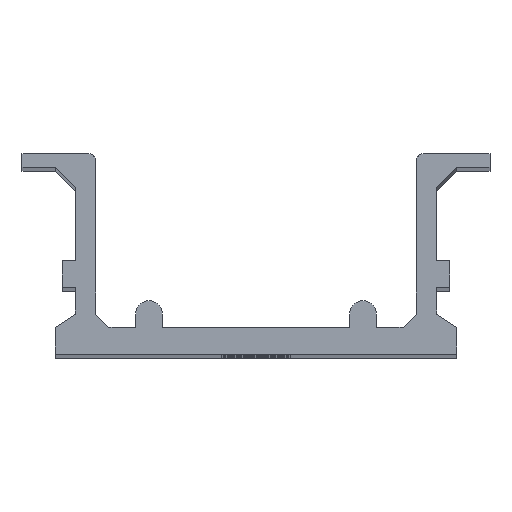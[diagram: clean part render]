
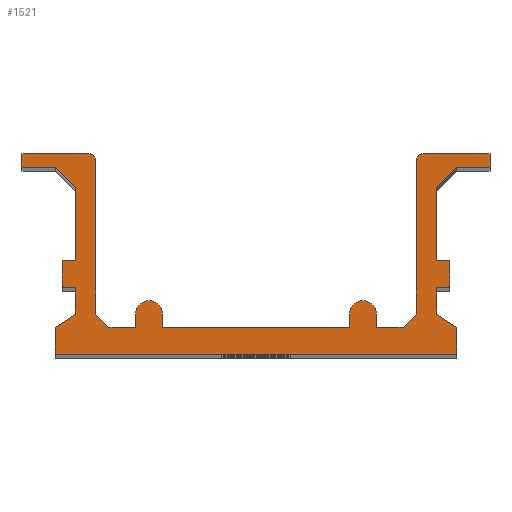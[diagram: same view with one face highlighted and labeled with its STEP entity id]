
A CAD part, top view. The second image highlights one B-rep face of the part: STEP entity #1521.
In plain terms, the highlighted planar face has unit normal (0, 0, 1).
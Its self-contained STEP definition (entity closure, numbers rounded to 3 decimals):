
#61=CIRCLE('',#1649,0.5);
#62=CIRCLE('',#1650,0.5);
#63=CIRCLE('',#1651,1.);
#64=CIRCLE('',#1652,1.);
#127=FACE_OUTER_BOUND('',#203,.T.);
#203=EDGE_LOOP('',(#1107,#1108,#1109,#1110,#1111,#1112,#1113,#1114,#1115,
#1116,#1117,#1118,#1119,#1120,#1121,#1122,#1123,#1124,#1125,#1126,#1127,
#1128,#1129,#1130,#1131,#1132,#1133,#1134,#1135,#1136,#1137,#1138,#1139,
#1140,#1141,#1142,#1143,#1144));
#325=LINE('',#2304,#503);
#326=LINE('',#2306,#504);
#327=LINE('',#2308,#505);
#328=LINE('',#2312,#506);
#329=LINE('',#2314,#507);
#330=LINE('',#2316,#508);
#331=LINE('',#2318,#509);
#332=LINE('',#2320,#510);
#333=LINE('',#2322,#511);
#334=LINE('',#2324,#512);
#335=LINE('',#2326,#513);
#336=LINE('',#2328,#514);
#337=LINE('',#2330,#515);
#338=LINE('',#2332,#516);
#339=LINE('',#2334,#517);
#340=LINE('',#2336,#518);
#341=LINE('',#2338,#519);
#342=LINE('',#2340,#520);
#343=LINE('',#2342,#521);
#344=LINE('',#2344,#522);
#345=LINE('',#2346,#523);
#346=LINE('',#2348,#524);
#347=LINE('',#2350,#525);
#348=LINE('',#2352,#526);
#349=LINE('',#2354,#527);
#350=LINE('',#2356,#528);
#351=LINE('',#2360,#529);
#352=LINE('',#2362,#530);
#353=LINE('',#2364,#531);
#354=LINE('',#2366,#532);
#355=LINE('',#2370,#533);
#356=LINE('',#2372,#534);
#357=LINE('',#2374,#535);
#358=LINE('',#2377,#536);
#503=VECTOR('',#1884,10.);
#504=VECTOR('',#1885,10.);
#505=VECTOR('',#1886,10.);
#506=VECTOR('',#1889,10.);
#507=VECTOR('',#1890,10.);
#508=VECTOR('',#1891,10.);
#509=VECTOR('',#1892,10.);
#510=VECTOR('',#1893,10.);
#511=VECTOR('',#1894,10.);
#512=VECTOR('',#1895,10.);
#513=VECTOR('',#1896,10.);
#514=VECTOR('',#1897,10.);
#515=VECTOR('',#1898,10.);
#516=VECTOR('',#1899,10.);
#517=VECTOR('',#1900,10.);
#518=VECTOR('',#1901,10.);
#519=VECTOR('',#1902,10.);
#520=VECTOR('',#1903,10.);
#521=VECTOR('',#1904,10.);
#522=VECTOR('',#1905,10.);
#523=VECTOR('',#1906,10.);
#524=VECTOR('',#1907,10.);
#525=VECTOR('',#1908,10.);
#526=VECTOR('',#1909,10.);
#527=VECTOR('',#1910,10.);
#528=VECTOR('',#1911,10.);
#529=VECTOR('',#1914,10.);
#530=VECTOR('',#1915,10.);
#531=VECTOR('',#1916,10.);
#532=VECTOR('',#1917,10.);
#533=VECTOR('',#1920,10.);
#534=VECTOR('',#1921,10.);
#535=VECTOR('',#1922,10.);
#536=VECTOR('',#1925,10.);
#681=VERTEX_POINT('',#2302);
#682=VERTEX_POINT('',#2303);
#683=VERTEX_POINT('',#2305);
#684=VERTEX_POINT('',#2307);
#685=VERTEX_POINT('',#2309);
#686=VERTEX_POINT('',#2311);
#687=VERTEX_POINT('',#2313);
#688=VERTEX_POINT('',#2315);
#689=VERTEX_POINT('',#2317);
#690=VERTEX_POINT('',#2319);
#691=VERTEX_POINT('',#2321);
#692=VERTEX_POINT('',#2323);
#693=VERTEX_POINT('',#2325);
#694=VERTEX_POINT('',#2327);
#695=VERTEX_POINT('',#2329);
#696=VERTEX_POINT('',#2331);
#697=VERTEX_POINT('',#2333);
#698=VERTEX_POINT('',#2335);
#699=VERTEX_POINT('',#2337);
#700=VERTEX_POINT('',#2339);
#701=VERTEX_POINT('',#2341);
#702=VERTEX_POINT('',#2343);
#703=VERTEX_POINT('',#2345);
#704=VERTEX_POINT('',#2347);
#705=VERTEX_POINT('',#2349);
#706=VERTEX_POINT('',#2351);
#707=VERTEX_POINT('',#2353);
#708=VERTEX_POINT('',#2355);
#709=VERTEX_POINT('',#2357);
#710=VERTEX_POINT('',#2359);
#711=VERTEX_POINT('',#2361);
#712=VERTEX_POINT('',#2363);
#713=VERTEX_POINT('',#2365);
#714=VERTEX_POINT('',#2367);
#715=VERTEX_POINT('',#2369);
#716=VERTEX_POINT('',#2371);
#717=VERTEX_POINT('',#2373);
#718=VERTEX_POINT('',#2375);
#857=EDGE_CURVE('',#681,#682,#325,.T.);
#858=EDGE_CURVE('',#682,#683,#326,.T.);
#859=EDGE_CURVE('',#683,#684,#327,.T.);
#860=EDGE_CURVE('',#684,#685,#61,.T.);
#861=EDGE_CURVE('',#685,#686,#328,.T.);
#862=EDGE_CURVE('',#686,#687,#329,.T.);
#863=EDGE_CURVE('',#687,#688,#330,.T.);
#864=EDGE_CURVE('',#688,#689,#331,.T.);
#865=EDGE_CURVE('',#689,#690,#332,.T.);
#866=EDGE_CURVE('',#690,#691,#333,.T.);
#867=EDGE_CURVE('',#691,#692,#334,.T.);
#868=EDGE_CURVE('',#692,#693,#335,.T.);
#869=EDGE_CURVE('',#693,#694,#336,.T.);
#870=EDGE_CURVE('',#694,#695,#337,.T.);
#871=EDGE_CURVE('',#695,#696,#338,.T.);
#872=EDGE_CURVE('',#696,#697,#339,.T.);
#873=EDGE_CURVE('',#697,#698,#340,.T.);
#874=EDGE_CURVE('',#698,#699,#341,.T.);
#875=EDGE_CURVE('',#699,#700,#342,.T.);
#876=EDGE_CURVE('',#700,#701,#343,.T.);
#877=EDGE_CURVE('',#701,#702,#344,.T.);
#878=EDGE_CURVE('',#702,#703,#345,.T.);
#879=EDGE_CURVE('',#703,#704,#346,.T.);
#880=EDGE_CURVE('',#704,#705,#347,.T.);
#881=EDGE_CURVE('',#705,#706,#348,.T.);
#882=EDGE_CURVE('',#706,#707,#349,.T.);
#883=EDGE_CURVE('',#707,#708,#350,.T.);
#884=EDGE_CURVE('',#708,#709,#62,.T.);
#885=EDGE_CURVE('',#709,#710,#351,.T.);
#886=EDGE_CURVE('',#710,#711,#352,.T.);
#887=EDGE_CURVE('',#711,#712,#353,.T.);
#888=EDGE_CURVE('',#712,#713,#354,.T.);
#889=EDGE_CURVE('',#713,#714,#63,.T.);
#890=EDGE_CURVE('',#714,#715,#355,.T.);
#891=EDGE_CURVE('',#715,#716,#356,.T.);
#892=EDGE_CURVE('',#716,#717,#357,.T.);
#893=EDGE_CURVE('',#717,#718,#64,.T.);
#894=EDGE_CURVE('',#718,#681,#358,.T.);
#1107=ORIENTED_EDGE('',*,*,#857,.T.);
#1108=ORIENTED_EDGE('',*,*,#858,.T.);
#1109=ORIENTED_EDGE('',*,*,#859,.T.);
#1110=ORIENTED_EDGE('',*,*,#860,.T.);
#1111=ORIENTED_EDGE('',*,*,#861,.T.);
#1112=ORIENTED_EDGE('',*,*,#862,.T.);
#1113=ORIENTED_EDGE('',*,*,#863,.T.);
#1114=ORIENTED_EDGE('',*,*,#864,.T.);
#1115=ORIENTED_EDGE('',*,*,#865,.T.);
#1116=ORIENTED_EDGE('',*,*,#866,.T.);
#1117=ORIENTED_EDGE('',*,*,#867,.T.);
#1118=ORIENTED_EDGE('',*,*,#868,.T.);
#1119=ORIENTED_EDGE('',*,*,#869,.T.);
#1120=ORIENTED_EDGE('',*,*,#870,.T.);
#1121=ORIENTED_EDGE('',*,*,#871,.T.);
#1122=ORIENTED_EDGE('',*,*,#872,.T.);
#1123=ORIENTED_EDGE('',*,*,#873,.T.);
#1124=ORIENTED_EDGE('',*,*,#874,.T.);
#1125=ORIENTED_EDGE('',*,*,#875,.T.);
#1126=ORIENTED_EDGE('',*,*,#876,.T.);
#1127=ORIENTED_EDGE('',*,*,#877,.T.);
#1128=ORIENTED_EDGE('',*,*,#878,.T.);
#1129=ORIENTED_EDGE('',*,*,#879,.T.);
#1130=ORIENTED_EDGE('',*,*,#880,.T.);
#1131=ORIENTED_EDGE('',*,*,#881,.T.);
#1132=ORIENTED_EDGE('',*,*,#882,.T.);
#1133=ORIENTED_EDGE('',*,*,#883,.T.);
#1134=ORIENTED_EDGE('',*,*,#884,.T.);
#1135=ORIENTED_EDGE('',*,*,#885,.T.);
#1136=ORIENTED_EDGE('',*,*,#886,.T.);
#1137=ORIENTED_EDGE('',*,*,#887,.T.);
#1138=ORIENTED_EDGE('',*,*,#888,.T.);
#1139=ORIENTED_EDGE('',*,*,#889,.T.);
#1140=ORIENTED_EDGE('',*,*,#890,.T.);
#1141=ORIENTED_EDGE('',*,*,#891,.T.);
#1142=ORIENTED_EDGE('',*,*,#892,.T.);
#1143=ORIENTED_EDGE('',*,*,#893,.T.);
#1144=ORIENTED_EDGE('',*,*,#894,.T.);
#1453=PLANE('',#1648);
#1521=ADVANCED_FACE('',(#127),#1453,.T.);
#1648=AXIS2_PLACEMENT_3D('',#2301,#1882,#1883);
#1649=AXIS2_PLACEMENT_3D('',#2310,#1887,#1888);
#1650=AXIS2_PLACEMENT_3D('',#2358,#1912,#1913);
#1651=AXIS2_PLACEMENT_3D('',#2368,#1918,#1919);
#1652=AXIS2_PLACEMENT_3D('',#2376,#1923,#1924);
#1882=DIRECTION('center_axis',(0.,0.,1.));
#1883=DIRECTION('ref_axis',(1.,0.,0.));
#1884=DIRECTION('',(-1.,0.,0.));
#1885=DIRECTION('',(-0.707,0.707,0.));
#1886=DIRECTION('',(0.,1.,0.));
#1887=DIRECTION('center_axis',(0.,0.,1.));
#1888=DIRECTION('ref_axis',(1.,0.,0.));
#1889=DIRECTION('',(-1.,0.,0.));
#1890=DIRECTION('',(0.,-1.,0.));
#1891=DIRECTION('',(1.,0.,0.));
#1892=DIRECTION('',(0.707,-0.707,0.));
#1893=DIRECTION('',(0.,-1.,0.));
#1894=DIRECTION('',(-1.,0.,0.));
#1895=DIRECTION('',(0.,-1.,0.));
#1896=DIRECTION('',(1.,0.,0.));
#1897=DIRECTION('',(0.,-1.,0.));
#1898=DIRECTION('',(-0.832,-0.555,0.));
#1899=DIRECTION('',(0.,-1.,0.));
#1900=DIRECTION('',(1.,0.,0.));
#1901=DIRECTION('',(0.,1.,0.));
#1902=DIRECTION('',(-0.832,0.555,0.));
#1903=DIRECTION('',(0.,1.,0.));
#1904=DIRECTION('',(1.,0.,0.));
#1905=DIRECTION('',(0.,1.,0.));
#1906=DIRECTION('',(-1.,0.,0.));
#1907=DIRECTION('',(0.,1.,0.));
#1908=DIRECTION('',(0.707,0.707,0.));
#1909=DIRECTION('',(1.,0.,0.));
#1910=DIRECTION('',(0.,1.,0.));
#1911=DIRECTION('',(-1.,0.,0.));
#1912=DIRECTION('center_axis',(0.,0.,1.));
#1913=DIRECTION('ref_axis',(0.,1.,0.));
#1914=DIRECTION('',(0.,-1.,0.));
#1915=DIRECTION('',(-0.707,-0.707,0.));
#1916=DIRECTION('',(-1.,0.,0.));
#1917=DIRECTION('',(0.,1.,0.));
#1918=DIRECTION('center_axis',(0.,0.,1.));
#1919=DIRECTION('ref_axis',(1.,0.,0.));
#1920=DIRECTION('',(0.,-1.,0.));
#1921=DIRECTION('',(-1.,0.,0.));
#1922=DIRECTION('',(0.,1.,0.));
#1923=DIRECTION('center_axis',(0.,0.,1.));
#1924=DIRECTION('ref_axis',(1.,0.,0.));
#1925=DIRECTION('',(0.,-1.,0.));
#2301=CARTESIAN_POINT('Origin',(0.,7.5,177.));
#2302=CARTESIAN_POINT('',(-9.,2.,177.));
#2303=CARTESIAN_POINT('',(-11.,2.,177.));
#2304=CARTESIAN_POINT('',(-9.,2.,177.));
#2305=CARTESIAN_POINT('',(-12.,3.,177.));
#2306=CARTESIAN_POINT('',(-11.,2.,177.));
#2307=CARTESIAN_POINT('',(-12.,14.5,177.));
#2308=CARTESIAN_POINT('',(-12.,3.,177.));
#2309=CARTESIAN_POINT('',(-12.5,15.,177.));
#2310=CARTESIAN_POINT('Origin',(-12.5,14.5,177.));
#2311=CARTESIAN_POINT('',(-17.5,15.,177.));
#2312=CARTESIAN_POINT('',(-12.5,15.,177.));
#2313=CARTESIAN_POINT('',(-17.5,14.,177.));
#2314=CARTESIAN_POINT('',(-17.5,15.,177.));
#2315=CARTESIAN_POINT('',(-15.,14.,177.));
#2316=CARTESIAN_POINT('',(-17.5,14.,177.));
#2317=CARTESIAN_POINT('',(-13.5,12.5,177.));
#2318=CARTESIAN_POINT('',(-15.,14.,177.));
#2319=CARTESIAN_POINT('',(-13.5,7.,177.));
#2320=CARTESIAN_POINT('',(-13.5,12.5,177.));
#2321=CARTESIAN_POINT('',(-14.5,7.,177.));
#2322=CARTESIAN_POINT('',(-13.5,7.,177.));
#2323=CARTESIAN_POINT('',(-14.5,5.,177.));
#2324=CARTESIAN_POINT('',(-14.5,7.,177.));
#2325=CARTESIAN_POINT('',(-13.5,5.,177.));
#2326=CARTESIAN_POINT('',(-14.5,5.,177.));
#2327=CARTESIAN_POINT('',(-13.5,3.,177.));
#2328=CARTESIAN_POINT('',(-13.5,5.,177.));
#2329=CARTESIAN_POINT('',(-15.,2.,177.));
#2330=CARTESIAN_POINT('',(-13.5,3.,177.));
#2331=CARTESIAN_POINT('',(-15.,0.,177.));
#2332=CARTESIAN_POINT('',(-15.,2.,177.));
#2333=CARTESIAN_POINT('',(15.,0.,177.));
#2334=CARTESIAN_POINT('',(-15.,0.,177.));
#2335=CARTESIAN_POINT('',(15.,2.,177.));
#2336=CARTESIAN_POINT('',(15.,0.,177.));
#2337=CARTESIAN_POINT('',(13.5,3.,177.));
#2338=CARTESIAN_POINT('',(15.,2.,177.));
#2339=CARTESIAN_POINT('',(13.5,5.,177.));
#2340=CARTESIAN_POINT('',(13.5,3.,177.));
#2341=CARTESIAN_POINT('',(14.5,5.,177.));
#2342=CARTESIAN_POINT('',(13.5,5.,177.));
#2343=CARTESIAN_POINT('',(14.5,7.,177.));
#2344=CARTESIAN_POINT('',(14.5,5.,177.));
#2345=CARTESIAN_POINT('',(13.5,7.,177.));
#2346=CARTESIAN_POINT('',(14.5,7.,177.));
#2347=CARTESIAN_POINT('',(13.5,12.5,177.));
#2348=CARTESIAN_POINT('',(13.5,7.,177.));
#2349=CARTESIAN_POINT('',(15.,14.,177.));
#2350=CARTESIAN_POINT('',(13.5,12.5,177.));
#2351=CARTESIAN_POINT('',(17.5,14.,177.));
#2352=CARTESIAN_POINT('',(15.,14.,177.));
#2353=CARTESIAN_POINT('',(17.5,15.,177.));
#2354=CARTESIAN_POINT('',(17.5,14.,177.));
#2355=CARTESIAN_POINT('',(12.5,15.,177.));
#2356=CARTESIAN_POINT('',(17.5,15.,177.));
#2357=CARTESIAN_POINT('',(12.,14.5,177.));
#2358=CARTESIAN_POINT('Origin',(12.5,14.5,177.));
#2359=CARTESIAN_POINT('',(12.,3.,177.));
#2360=CARTESIAN_POINT('',(12.,14.5,177.));
#2361=CARTESIAN_POINT('',(11.,2.,177.));
#2362=CARTESIAN_POINT('',(12.,3.,177.));
#2363=CARTESIAN_POINT('',(9.,2.,177.));
#2364=CARTESIAN_POINT('',(11.,2.,177.));
#2365=CARTESIAN_POINT('',(9.,3.,177.));
#2366=CARTESIAN_POINT('',(9.,2.,177.));
#2367=CARTESIAN_POINT('',(7.,3.,177.));
#2368=CARTESIAN_POINT('Origin',(8.,3.,177.));
#2369=CARTESIAN_POINT('',(7.,2.,177.));
#2370=CARTESIAN_POINT('',(7.,3.,177.));
#2371=CARTESIAN_POINT('',(-7.,2.,177.));
#2372=CARTESIAN_POINT('',(7.,2.,177.));
#2373=CARTESIAN_POINT('',(-7.,3.,177.));
#2374=CARTESIAN_POINT('',(-7.,2.,177.));
#2375=CARTESIAN_POINT('',(-9.,3.,177.));
#2376=CARTESIAN_POINT('Origin',(-8.,3.,177.));
#2377=CARTESIAN_POINT('',(-9.,3.,177.));
